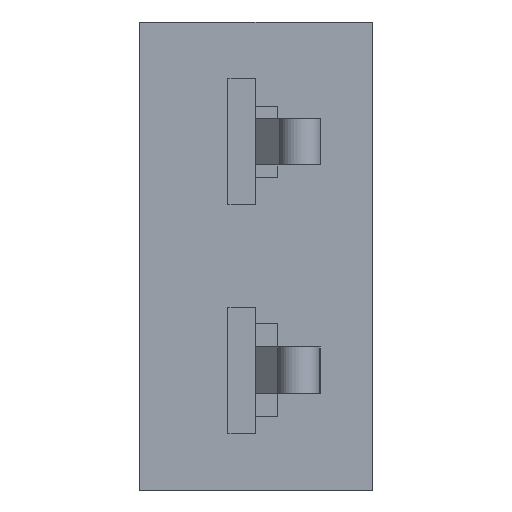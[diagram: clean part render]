
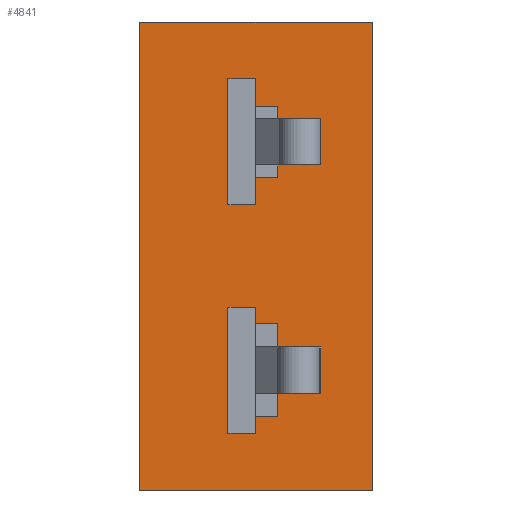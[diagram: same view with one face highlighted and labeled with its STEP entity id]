
A CAD part, left-side view. The second image highlights one B-rep face of the part: STEP entity #4841.
In plain terms, the highlighted planar face has unit normal (-1, 0, 0).
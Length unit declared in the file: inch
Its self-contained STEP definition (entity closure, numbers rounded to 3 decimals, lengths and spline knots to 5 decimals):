
#135=FACE_BOUND('',#659,.T.);
#136=FACE_BOUND('',#660,.T.);
#370=FACE_OUTER_BOUND('',#658,.T.);
#658=EDGE_LOOP('',(#3796,#3797,#3798,#3799));
#659=EDGE_LOOP('',(#3800,#3801,#3802,#3803,#3804,#3805,#3806,#3807,#3808,
#3809,#3810,#3811));
#660=EDGE_LOOP('',(#3812,#3813,#3814,#3815,#3816,#3817,#3818,#3819,#3820,
#3821,#3822,#3823));
#1165=LINE('',#7558,#1622);
#1169=LINE('',#7567,#1626);
#1172=LINE('',#7573,#1629);
#1174=LINE('',#7577,#1631);
#1179=LINE('',#7589,#1636);
#1182=LINE('',#7594,#1639);
#1185=LINE('',#7599,#1642);
#1188=LINE('',#7603,#1645);
#1192=LINE('',#7614,#1649);
#1195=LINE('',#7620,#1652);
#1198=LINE('',#7626,#1655);
#1201=LINE('',#7632,#1658);
#1204=LINE('',#7638,#1661);
#1207=LINE('',#7642,#1664);
#1209=LINE('',#7648,#1666);
#1212=LINE('',#7653,#1669);
#1214=LINE('',#7657,#1671);
#1216=LINE('',#7661,#1673);
#1217=LINE('',#7663,#1674);
#1219=LINE('',#7667,#1676);
#1222=LINE('',#7673,#1679);
#1224=LINE('',#7676,#1681);
#1226=LINE('',#7680,#1683);
#1227=LINE('',#7682,#1684);
#1259=LINE('',#7790,#1716);
#1268=LINE('',#7840,#1725);
#1301=LINE('',#7928,#1758);
#1310=LINE('',#7946,#1767);
#1622=VECTOR('',#6015,0.3937);
#1626=VECTOR('',#6021,0.3937);
#1629=VECTOR('',#6026,0.3937);
#1631=VECTOR('',#6030,0.3937);
#1636=VECTOR('',#6041,0.3937);
#1639=VECTOR('',#6044,0.3937);
#1642=VECTOR('',#6047,0.3937);
#1645=VECTOR('',#6050,0.3937);
#1649=VECTOR('',#6060,0.3937);
#1652=VECTOR('',#6065,0.3937);
#1655=VECTOR('',#6070,0.3937);
#1658=VECTOR('',#6075,0.3937);
#1661=VECTOR('',#6080,0.3937);
#1664=VECTOR('',#6085,0.3937);
#1666=VECTOR('',#6091,0.3937);
#1669=VECTOR('',#6096,0.3937);
#1671=VECTOR('',#6100,0.3937);
#1673=VECTOR('',#6104,0.3937);
#1674=VECTOR('',#6107,0.3937);
#1676=VECTOR('',#6111,0.3937);
#1679=VECTOR('',#6116,0.3937);
#1681=VECTOR('',#6120,0.3937);
#1683=VECTOR('',#6124,0.3937);
#1684=VECTOR('',#6127,0.3937);
#1716=VECTOR('',#6221,0.3937);
#1725=VECTOR('',#6266,0.3937);
#1758=VECTOR('',#6383,0.3937);
#1767=VECTOR('',#6410,0.3937);
#2094=VERTEX_POINT('',#7555);
#2095=VERTEX_POINT('',#7557);
#2098=VERTEX_POINT('',#7564);
#2099=VERTEX_POINT('',#7566);
#2101=VERTEX_POINT('',#7572);
#2102=VERTEX_POINT('',#7576);
#2105=VERTEX_POINT('',#7586);
#2106=VERTEX_POINT('',#7588);
#2107=VERTEX_POINT('',#7591);
#2108=VERTEX_POINT('',#7593);
#2110=VERTEX_POINT('',#7598);
#2115=VERTEX_POINT('',#7613);
#2117=VERTEX_POINT('',#7619);
#2119=VERTEX_POINT('',#7625);
#2121=VERTEX_POINT('',#7631);
#2123=VERTEX_POINT('',#7637);
#2124=VERTEX_POINT('',#7645);
#2125=VERTEX_POINT('',#7647);
#2126=VERTEX_POINT('',#7651);
#2127=VERTEX_POINT('',#7655);
#2128=VERTEX_POINT('',#7659);
#2129=VERTEX_POINT('',#7665);
#2131=VERTEX_POINT('',#7671);
#2132=VERTEX_POINT('',#7678);
#2176=VERTEX_POINT('',#7787);
#2177=VERTEX_POINT('',#7789);
#2199=VERTEX_POINT('',#7837);
#2200=VERTEX_POINT('',#7839);
#2587=EDGE_CURVE('',#2095,#2094,#1165,.T.);
#2591=EDGE_CURVE('',#2099,#2098,#1169,.T.);
#2594=EDGE_CURVE('',#2101,#2099,#1172,.T.);
#2596=EDGE_CURVE('',#2102,#2101,#1174,.T.);
#2603=EDGE_CURVE('',#2106,#2105,#1179,.T.);
#2606=EDGE_CURVE('',#2108,#2107,#1182,.T.);
#2609=EDGE_CURVE('',#2110,#2102,#1185,.T.);
#2612=EDGE_CURVE('',#2098,#2095,#1188,.T.);
#2618=EDGE_CURVE('',#2115,#2110,#1192,.T.);
#2621=EDGE_CURVE('',#2117,#2115,#1195,.T.);
#2624=EDGE_CURVE('',#2119,#2117,#1198,.T.);
#2627=EDGE_CURVE('',#2121,#2119,#1201,.T.);
#2630=EDGE_CURVE('',#2123,#2121,#1204,.T.);
#2633=EDGE_CURVE('',#2094,#2123,#1207,.T.);
#2635=EDGE_CURVE('',#2125,#2124,#1209,.T.);
#2638=EDGE_CURVE('',#2124,#2126,#1212,.T.);
#2640=EDGE_CURVE('',#2126,#2127,#1214,.T.);
#2642=EDGE_CURVE('',#2127,#2128,#1216,.T.);
#2643=EDGE_CURVE('',#2128,#2106,#1217,.T.);
#2645=EDGE_CURVE('',#2105,#2129,#1219,.T.);
#2648=EDGE_CURVE('',#2129,#2131,#1222,.T.);
#2650=EDGE_CURVE('',#2131,#2108,#1224,.T.);
#2652=EDGE_CURVE('',#2107,#2132,#1226,.T.);
#2653=EDGE_CURVE('',#2132,#2125,#1227,.T.);
#2705=EDGE_CURVE('',#2176,#2177,#1259,.T.);
#2730=EDGE_CURVE('',#2199,#2200,#1268,.T.);
#2776=EDGE_CURVE('',#2176,#2200,#1301,.T.);
#2785=EDGE_CURVE('',#2177,#2199,#1310,.T.);
#3796=ORIENTED_EDGE('',*,*,#2776,.T.);
#3797=ORIENTED_EDGE('',*,*,#2730,.F.);
#3798=ORIENTED_EDGE('',*,*,#2785,.F.);
#3799=ORIENTED_EDGE('',*,*,#2705,.F.);
#3800=ORIENTED_EDGE('',*,*,#2587,.T.);
#3801=ORIENTED_EDGE('',*,*,#2633,.T.);
#3802=ORIENTED_EDGE('',*,*,#2630,.T.);
#3803=ORIENTED_EDGE('',*,*,#2627,.T.);
#3804=ORIENTED_EDGE('',*,*,#2624,.T.);
#3805=ORIENTED_EDGE('',*,*,#2621,.T.);
#3806=ORIENTED_EDGE('',*,*,#2618,.T.);
#3807=ORIENTED_EDGE('',*,*,#2609,.T.);
#3808=ORIENTED_EDGE('',*,*,#2596,.T.);
#3809=ORIENTED_EDGE('',*,*,#2594,.T.);
#3810=ORIENTED_EDGE('',*,*,#2591,.T.);
#3811=ORIENTED_EDGE('',*,*,#2612,.T.);
#3812=ORIENTED_EDGE('',*,*,#2635,.T.);
#3813=ORIENTED_EDGE('',*,*,#2638,.T.);
#3814=ORIENTED_EDGE('',*,*,#2640,.T.);
#3815=ORIENTED_EDGE('',*,*,#2642,.T.);
#3816=ORIENTED_EDGE('',*,*,#2643,.T.);
#3817=ORIENTED_EDGE('',*,*,#2603,.T.);
#3818=ORIENTED_EDGE('',*,*,#2645,.T.);
#3819=ORIENTED_EDGE('',*,*,#2648,.T.);
#3820=ORIENTED_EDGE('',*,*,#2650,.T.);
#3821=ORIENTED_EDGE('',*,*,#2606,.T.);
#3822=ORIENTED_EDGE('',*,*,#2652,.T.);
#3823=ORIENTED_EDGE('',*,*,#2653,.T.);
#4629=PLANE('',#5444);
#4841=ADVANCED_FACE('',(#370,#135,#136),#4629,.T.);
#5444=AXIS2_PLACEMENT_3D('',#7963,#6433,#6434);
#6015=DIRECTION('',(0.,-1.,0.));
#6021=DIRECTION('',(0.,-1.,0.));
#6026=DIRECTION('',(0.,0.,1.));
#6030=DIRECTION('',(0.,1.,0.));
#6041=DIRECTION('',(0.,0.,-1.));
#6044=DIRECTION('',(0.,0.,-1.));
#6047=DIRECTION('',(0.,0.,-1.));
#6050=DIRECTION('',(0.,0.,-1.));
#6060=DIRECTION('',(0.,1.,0.));
#6065=DIRECTION('',(0.,0.,-1.));
#6070=DIRECTION('',(0.,1.,0.));
#6075=DIRECTION('',(0.,0.,-1.));
#6080=DIRECTION('',(0.,-1.,0.));
#6085=DIRECTION('',(0.,0.,-1.));
#6091=DIRECTION('',(0.,-1.,0.));
#6096=DIRECTION('',(0.,0.,-1.));
#6100=DIRECTION('',(0.,1.,0.));
#6104=DIRECTION('',(0.,0.,-1.));
#6107=DIRECTION('',(0.,1.,0.));
#6111=DIRECTION('',(0.,1.,0.));
#6116=DIRECTION('',(0.,0.,1.));
#6120=DIRECTION('',(0.,-1.,0.));
#6124=DIRECTION('',(0.,-1.,0.));
#6127=DIRECTION('',(0.,0.,-1.));
#6221=DIRECTION('',(0.,0.,-1.));
#6266=DIRECTION('',(0.,0.,1.));
#6383=DIRECTION('',(0.,1.,0.));
#6410=DIRECTION('',(0.,1.,0.));
#6433=DIRECTION('center_axis',(-1.,0.,0.));
#6434=DIRECTION('ref_axis',(0.,0.,1.));
#7555=CARTESIAN_POINT('',(-0.5025,-0.02925,0.20125));
#7557=CARTESIAN_POINT('',(-0.5025,0.00075,0.20125));
#7558=CARTESIAN_POINT('',(-0.5025,0.00037,0.20125));
#7564=CARTESIAN_POINT('',(-0.5025,0.00075,0.23875));
#7566=CARTESIAN_POINT('',(-0.5025,0.03775,0.23875));
#7567=CARTESIAN_POINT('',(-0.5025,0.01887,0.23875));
#7572=CARTESIAN_POINT('',(-0.5025,0.03775,0.06875));
#7573=CARTESIAN_POINT('',(-0.5025,0.03775,-0.12312));
#7576=CARTESIAN_POINT('',(-0.5025,0.00075,0.06875));
#7577=CARTESIAN_POINT('',(-0.5025,0.00038,0.06875));
#7586=CARTESIAN_POINT('',(-0.5025,0.00075,-0.23875));
#7588=CARTESIAN_POINT('',(-0.5025,0.00075,-0.21625));
#7589=CARTESIAN_POINT('',(-0.5025,0.00075,-0.26562));
#7591=CARTESIAN_POINT('',(-0.5025,0.00075,-0.09125));
#7593=CARTESIAN_POINT('',(-0.5025,0.00075,-0.06875));
#7594=CARTESIAN_POINT('',(-0.5025,0.00075,-0.19188));
#7598=CARTESIAN_POINT('',(-0.5025,0.00075,0.10625));
#7599=CARTESIAN_POINT('',(-0.5025,0.00075,-0.10437));
#7603=CARTESIAN_POINT('',(-0.5025,0.00075,-0.03812));
#7613=CARTESIAN_POINT('',(-0.5025,-0.02925,0.10625));
#7614=CARTESIAN_POINT('',(-0.5025,-0.01463,0.10625));
#7619=CARTESIAN_POINT('',(-0.5025,-0.02925,0.1225));
#7620=CARTESIAN_POINT('',(-0.5025,-0.02925,-0.09625));
#7625=CARTESIAN_POINT('',(-0.5025,-0.08725,0.1225));
#7626=CARTESIAN_POINT('',(-0.5025,-0.04363,0.1225));
#7631=CARTESIAN_POINT('',(-0.5025,-0.08725,0.185));
#7632=CARTESIAN_POINT('',(-0.5025,-0.08725,-0.065));
#7637=CARTESIAN_POINT('',(-0.5025,-0.02925,0.185));
#7638=CARTESIAN_POINT('',(-0.5025,-0.01462,0.185));
#7642=CARTESIAN_POINT('',(-0.5025,-0.02925,-0.05687));
#7645=CARTESIAN_POINT('',(-0.5025,-0.08725,-0.1225));
#7647=CARTESIAN_POINT('',(-0.5025,-0.02925,-0.1225));
#7648=CARTESIAN_POINT('',(-0.5025,-0.01463,-0.1225));
#7651=CARTESIAN_POINT('',(-0.5025,-0.08725,-0.185));
#7653=CARTESIAN_POINT('',(-0.5025,-0.08725,-0.21875));
#7655=CARTESIAN_POINT('',(-0.5025,-0.02925,-0.185));
#7657=CARTESIAN_POINT('',(-0.5025,-0.04363,-0.185));
#7659=CARTESIAN_POINT('',(-0.5025,-0.02925,-0.21625));
#7661=CARTESIAN_POINT('',(-0.5025,-0.02925,-0.25));
#7663=CARTESIAN_POINT('',(-0.5025,-0.01463,-0.21625));
#7665=CARTESIAN_POINT('',(-0.5025,0.03775,-0.23875));
#7667=CARTESIAN_POINT('',(-0.5025,0.00037,-0.23875));
#7671=CARTESIAN_POINT('',(-0.5025,0.03775,-0.06875));
#7673=CARTESIAN_POINT('',(-0.5025,0.03775,-0.27688));
#7676=CARTESIAN_POINT('',(-0.5025,0.01888,-0.06875));
#7678=CARTESIAN_POINT('',(-0.5025,-0.02925,-0.09125));
#7680=CARTESIAN_POINT('',(-0.5025,0.00037,-0.09125));
#7682=CARTESIAN_POINT('',(-0.5025,-0.02925,-0.20312));
#7787=CARTESIAN_POINT('',(-0.5025,-0.15625,0.315));
#7789=CARTESIAN_POINT('',(-0.5025,-0.15625,-0.315));
#7790=CARTESIAN_POINT('',(-0.5025,-0.15625,-0.315));
#7837=CARTESIAN_POINT('',(-0.5025,0.15625,-0.315));
#7839=CARTESIAN_POINT('',(-0.5025,0.15625,0.315));
#7840=CARTESIAN_POINT('',(-0.5025,0.15625,-0.315));
#7928=CARTESIAN_POINT('',(-0.5025,0.,0.315));
#7946=CARTESIAN_POINT('',(-0.5025,0.,-0.315));
#7963=CARTESIAN_POINT('Origin',(-0.5025,0.,-0.315));
